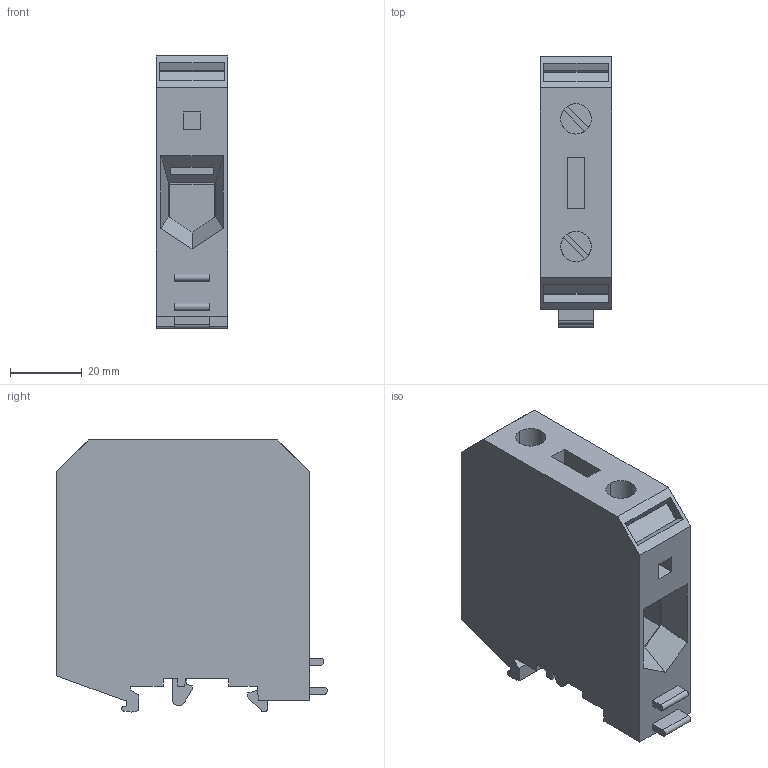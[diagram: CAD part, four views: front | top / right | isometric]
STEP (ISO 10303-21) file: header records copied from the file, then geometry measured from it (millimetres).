
FILE_DESCRIPTION(('Creo Elements/Direct Modeling STEP Export'),'2;1');
FILE_NAME('C:/Temp/JobServerData/JobServer Files/1b268b8c-0e86-4bc7-96a4-3bb2f7c299e3/work/output/model.stp','2021-07-08T10:19:42',(''),(''),'Creo Elements/Direct Modeling STEP processor for AP214 (Solid Model)','Creo Elements/Direct Modeling 20.1D 10-Oct-2020 (C) Parametric Technology GmbH','');
FILE_SCHEMA(('AUTOMOTIVE_DESIGN { 1 0 10303 214 1 1 1 1 }'));
Length unit declared in the file: millimetre
Products named in the file (2): UKH_50-Select
Assembly tree (1 placements, depth 2):
  UKH_50-Select
    UKH_50-Select
Bounding box: 20 x 75.45 x 75.8 mm (x, y, z)
Volume: 81480.1 mm3; surface area: 21449.1 mm2
Topology: 1 solids, 1 shells, 151 faces, 396 edges, 260 vertices
Faces by surface type: plane 140, cylinder 11
Entity records: 5722 total; most frequent: ORIENTED_EDGE 792, CARTESIAN_POINT 789, DIRECTION 697, EDGE_CURVE 396, VECTOR 361, LINE 361, VERTEX_POINT 260, AXIS2_PLACEMENT_3D 168
